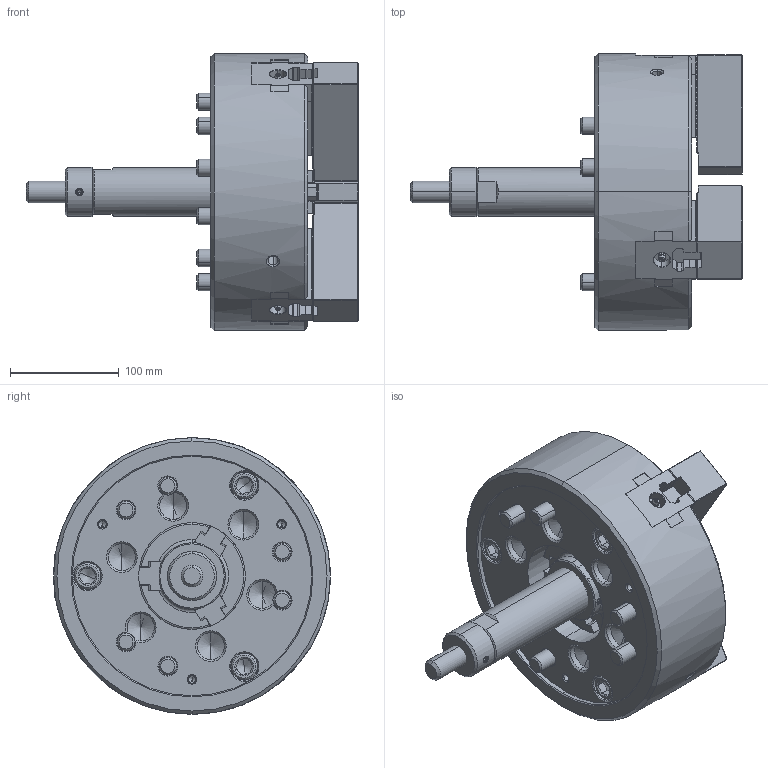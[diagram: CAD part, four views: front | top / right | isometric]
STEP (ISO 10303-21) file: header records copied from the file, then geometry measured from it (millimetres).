
FILE_DESCRIPTION (( 'STEP AP214' ), '1' );
FILE_NAME ('DT1_N-10_OUTSIDE_VIEW_HUL.STEP', '2026-03-16T00:21:34', ( '' ), ( '' ), 'SwSTEP 2.0', 'SolidWorks 2022', '' );
FILE_SCHEMA (( 'AUTOMOTIVE_DESIGN' ));
Length unit declared in the file: millimetre
Products named in the file (11): DT1_N-10_BASE^DT1_N-10; DT1_N-10_M16x85^DT1_N-10; DT1_N-10_M5x12^DT1_N-10; DT1_N-10_DRAWSCREW^DT1_N-10; Copy of 61P310584^DT1_N-10; DT1_N-10_DN^DT1_N-10; DT1_N-10_COVER^DT1_N-10; DT1_N-10_OUTSIDE_VIEW_HUL; DT1_N-10_TNUT^DT1_N-10; DT1_N-10_M12x35^DT1_N-10; DT1_N-10_SOFTJAW^DT1_N-10
Assembly tree (26 placements, depth 2):
  DT1_N-10_OUTSIDE_VIEW_HUL
    DT1_N-10_SOFTJAW^DT1_N-10  x3
    DT1_N-10_TNUT^DT1_N-10  x3
    DT1_N-10_COVER^DT1_N-10
    DT1_N-10_DRAWSCREW^DT1_N-10
    Copy of 61P310584^DT1_N-10
    DT1_N-10_DN^DT1_N-10
    DT1_N-10_BASE^DT1_N-10
    DT1_N-10_M5x12^DT1_N-10  x3
    DT1_N-10_M12x35^DT1_N-10  x6
    DT1_N-10_M16x85^DT1_N-10  x6
Bounding box: 304.81 x 254 x 254 mm (x, y, z)
Volume: 4716158.9 mm3; surface area: 512106 mm2
Topology: 26 solids, 26 shells, 4128 faces, 11633 edges, 7598 vertices
Faces by surface type: plane 2920, cylinder 613, cone 420, bspline 111, torus 58, sphere 6
Entity records: 104325 total; most frequent: CARTESIAN_POINT 28739, ORIENTED_EDGE 16890, DIRECTION 13787, EDGE_CURVE 8445, VECTOR 6237, LINE 6237, VERTEX_POINT 5542, AXIS2_PLACEMENT_3D 3775
